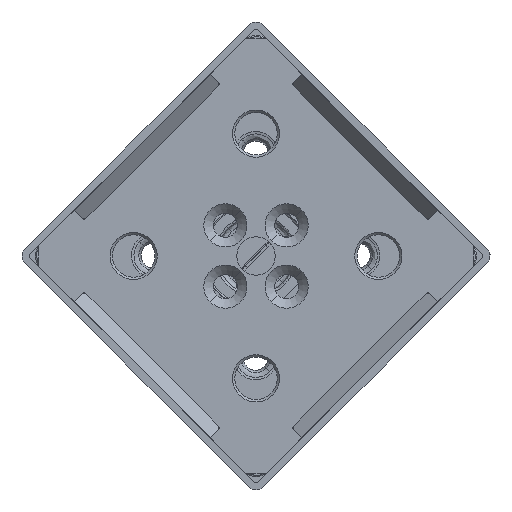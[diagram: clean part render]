
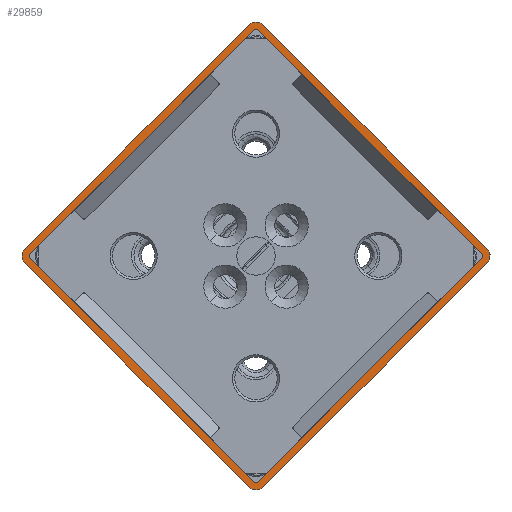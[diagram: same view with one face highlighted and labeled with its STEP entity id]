
A CAD part, left-side view. The second image highlights one B-rep face of the part: STEP entity #29859.
In plain terms, the highlighted planar face has unit normal (-1, 0, 0) as drawn and (0, -1, 0) by its records, which use the part's own axes.
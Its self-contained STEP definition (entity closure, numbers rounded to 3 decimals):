
#657 = EDGE_CURVE ( 'NONE', #50872, #6679, #55250, .T. ) ;
#1380 = ORIENTED_EDGE ( 'NONE', *, *, #38795, .T. ) ;
#1671 = AXIS2_PLACEMENT_3D ( 'NONE', #7161, #50293, #20196 ) ;
#1926 = DIRECTION ( 'NONE',  ( 0., 1., 0. ) ) ;
#2103 = CARTESIAN_POINT ( 'NONE',  ( -33., 0., -33. ) ) ;
#3535 = CARTESIAN_POINT ( 'NONE',  ( -33.5, 0., 33. ) ) ;
#3943 = CARTESIAN_POINT ( 'NONE',  ( -35., 0., 33. ) ) ;
#4240 = FACE_BOUND ( 'NONE', #39402, .T. ) ;
#4444 = DIRECTION ( 'NONE',  ( 0., 0., -1. ) ) ;
#4704 = CARTESIAN_POINT ( 'NONE',  ( 35., 0., -33. ) ) ;
#4969 = CARTESIAN_POINT ( 'NONE',  ( 35., 0., -35. ) ) ;
#5151 = VERTEX_POINT ( 'NONE', #11495 ) ;
#5695 = CARTESIAN_POINT ( 'NONE',  ( -33., 0., 33. ) ) ;
#5888 = DIRECTION ( 'NONE',  ( 0., -1., 0. ) ) ;
#6018 = CARTESIAN_POINT ( 'NONE',  ( 33., 0., 33.5 ) ) ;
#6189 = DIRECTION ( 'NONE',  ( 0., 0., 1. ) ) ;
#6377 = VECTOR ( 'NONE', #27333, 1000. ) ;
#6381 = VERTEX_POINT ( 'NONE', #19144 ) ;
#6679 = VERTEX_POINT ( 'NONE', #48446 ) ;
#7084 = DIRECTION ( 'NONE',  ( 0., -1., 0. ) ) ;
#7161 = CARTESIAN_POINT ( 'NONE',  ( 33., 0., -33. ) ) ;
#8364 = EDGE_CURVE ( 'NONE', #32255, #6381, #53632, .T. ) ;
#8738 = CARTESIAN_POINT ( 'NONE',  ( 35., 0., -33.5 ) ) ;
#8912 = VECTOR ( 'NONE', #42591, 1000. ) ;
#9040 = VECTOR ( 'NONE', #21543, 1000. ) ;
#9126 = LINE ( 'NONE', #8738, #35053 ) ;
#9508 = CARTESIAN_POINT ( 'NONE',  ( 33., 0., -35. ) ) ;
#9736 = EDGE_CURVE ( 'NONE', #20896, #28183, #44194, .T. ) ;
#9762 = AXIS2_PLACEMENT_3D ( 'NONE', #21400, #25697, #4444 ) ;
#10309 = CARTESIAN_POINT ( 'NONE',  ( 33.5, 0., 33. ) ) ;
#10525 = EDGE_CURVE ( 'NONE', #18571, #12742, #16004, .T. ) ;
#11495 = CARTESIAN_POINT ( 'NONE',  ( -33., 0., -33.5 ) ) ;
#12179 = ORIENTED_EDGE ( 'NONE', *, *, #49086, .T. ) ;
#12308 = ORIENTED_EDGE ( 'NONE', *, *, #54516, .T. ) ;
#12742 = VERTEX_POINT ( 'NONE', #10309 ) ;
#12803 = VECTOR ( 'NONE', #13637, 1000. ) ;
#12852 = ORIENTED_EDGE ( 'NONE', *, *, #17684, .T. ) ;
#13637 = DIRECTION ( 'NONE',  ( 0., 0., 1. ) ) ;
#13996 = EDGE_CURVE ( 'NONE', #23953, #32663, #18301, .T. ) ;
#14532 = CARTESIAN_POINT ( 'NONE',  ( 33., 0., 35. ) ) ;
#14807 = ORIENTED_EDGE ( 'NONE', *, *, #23459, .F. ) ;
#14996 = ORIENTED_EDGE ( 'NONE', *, *, #8364, .T. ) ;
#15267 = CARTESIAN_POINT ( 'NONE',  ( -33., 0., 35. ) ) ;
#16004 = CIRCLE ( 'NONE', #22441, 0.5 ) ;
#16369 = DIRECTION ( 'NONE',  ( 0., -1., 0. ) ) ;
#17684 = EDGE_CURVE ( 'NONE', #5151, #34573, #34817, .T. ) ;
#18301 = LINE ( 'NONE', #48833, #6377 ) ;
#18571 = VERTEX_POINT ( 'NONE', #6018 ) ;
#18816 = AXIS2_PLACEMENT_3D ( 'NONE', #45631, #45452, #24513 ) ;
#19144 = CARTESIAN_POINT ( 'NONE',  ( 33., 0., -33.5 ) ) ;
#19308 = CARTESIAN_POINT ( 'NONE',  ( 35., 0., 35. ) ) ;
#19596 = LINE ( 'NONE', #55105, #8912 ) ;
#20196 = DIRECTION ( 'NONE',  ( 0., 0., 1. ) ) ;
#20224 = DIRECTION ( 'NONE',  ( 0., -1., 0. ) ) ;
#20368 = LINE ( 'NONE', #30140, #9040 ) ;
#20377 = ORIENTED_EDGE ( 'NONE', *, *, #27175, .T. ) ;
#20896 = VERTEX_POINT ( 'NONE', #3535 ) ;
#21400 = CARTESIAN_POINT ( 'NONE',  ( 33., 0., 33. ) ) ;
#21543 = DIRECTION ( 'NONE',  ( 0., 0., -1. ) ) ;
#21604 = ORIENTED_EDGE ( 'NONE', *, *, #43603, .T. ) ;
#21714 = EDGE_CURVE ( 'NONE', #12742, #32255, #20368, .T. ) ;
#22441 = AXIS2_PLACEMENT_3D ( 'NONE', #26529, #40151, #23341 ) ;
#23028 = VERTEX_POINT ( 'NONE', #9508 ) ;
#23341 = DIRECTION ( 'NONE',  ( 0., 0., 1. ) ) ;
#23459 = EDGE_CURVE ( 'NONE', #23953, #31006, #38891, .T. ) ;
#23858 = DIRECTION ( 'NONE',  ( 0., 0., -1. ) ) ;
#23953 = VERTEX_POINT ( 'NONE', #14532 ) ;
#24513 = DIRECTION ( 'NONE',  ( 0., 0., 1. ) ) ;
#25011 = CARTESIAN_POINT ( 'NONE',  ( 35., 0., -35. ) ) ;
#25588 = FACE_OUTER_BOUND ( 'NONE', #44670, .T. ) ;
#25697 = DIRECTION ( 'NONE',  ( 0., 1., 0. ) ) ;
#26529 = CARTESIAN_POINT ( 'NONE',  ( 33., 0., 33. ) ) ;
#27060 = ORIENTED_EDGE ( 'NONE', *, *, #657, .T. ) ;
#27175 = EDGE_CURVE ( 'NONE', #32663, #38821, #31946, .T. ) ;
#27333 = DIRECTION ( 'NONE',  ( -1., 0., 0. ) ) ;
#27414 = AXIS2_PLACEMENT_3D ( 'NONE', #54440, #20224, #50142 ) ;
#27905 = CARTESIAN_POINT ( 'NONE',  ( 33.5, 0., -33. ) ) ;
#28183 = VERTEX_POINT ( 'NONE', #29925 ) ;
#29859 = ADVANCED_FACE ( 'NONE', ( #4240, #25588 ), #38270, .T. ) ;
#29925 = CARTESIAN_POINT ( 'NONE',  ( -33., 0., 33.5 ) ) ;
#29981 = ORIENTED_EDGE ( 'NONE', *, *, #49764, .T. ) ;
#30140 = CARTESIAN_POINT ( 'NONE',  ( 33.5, 0., -35. ) ) ;
#31006 = VERTEX_POINT ( 'NONE', #41634 ) ;
#31437 = CARTESIAN_POINT ( 'NONE',  ( -33.5, 0., -33. ) ) ;
#31763 = AXIS2_PLACEMENT_3D ( 'NONE', #5695, #5888, #48455 ) ;
#31916 = VECTOR ( 'NONE', #37544, 1000. ) ;
#31946 = CIRCLE ( 'NONE', #31763, 2. ) ;
#32255 = VERTEX_POINT ( 'NONE', #27905 ) ;
#32663 = VERTEX_POINT ( 'NONE', #15267 ) ;
#32796 = CARTESIAN_POINT ( 'NONE',  ( 33., 0., -33. ) ) ;
#33414 = DIRECTION ( 'NONE',  ( 0., 0., -1. ) ) ;
#33614 = CARTESIAN_POINT ( 'NONE',  ( -35., 0., -33. ) ) ;
#34007 = ORIENTED_EDGE ( 'NONE', *, *, #9736, .T. ) ;
#34113 = CIRCLE ( 'NONE', #40105, 2. ) ;
#34573 = VERTEX_POINT ( 'NONE', #31437 ) ;
#34817 = CIRCLE ( 'NONE', #49644, 0.5 ) ;
#35053 = VECTOR ( 'NONE', #51490, 1000. ) ;
#35071 = VERTEX_POINT ( 'NONE', #4704 ) ;
#35195 = DIRECTION ( 'NONE',  ( 1., 0., 0. ) ) ;
#36351 = ORIENTED_EDGE ( 'NONE', *, *, #21714, .T. ) ;
#36469 = VECTOR ( 'NONE', #35195, 1000. ) ;
#37544 = DIRECTION ( 'NONE',  ( 1., 0., 0. ) ) ;
#38270 = PLANE ( 'NONE',  #41209 ) ;
#38795 = EDGE_CURVE ( 'NONE', #38821, #50872, #19596, .T. ) ;
#38821 = VERTEX_POINT ( 'NONE', #3943 ) ;
#38891 = CIRCLE ( 'NONE', #9762, 2. ) ;
#39402 = EDGE_LOOP ( 'NONE', ( #44752, #49285, #36351, #14996, #21604, #12852, #52664, #34007 ) ) ;
#40007 = CARTESIAN_POINT ( 'NONE',  ( -33.5, 0., -35. ) ) ;
#40064 = DIRECTION ( 'NONE',  ( 0., 0., 1. ) ) ;
#40105 = AXIS2_PLACEMENT_3D ( 'NONE', #32796, #7084, #23858 ) ;
#40151 = DIRECTION ( 'NONE',  ( 0., 1., 0. ) ) ;
#40860 = VECTOR ( 'NONE', #40064, 1000. ) ;
#41209 = AXIS2_PLACEMENT_3D ( 'NONE', #25011, #16369, #33414 ) ;
#41485 = CARTESIAN_POINT ( 'NONE',  ( 35., 0., 33.5 ) ) ;
#41634 = CARTESIAN_POINT ( 'NONE',  ( 35., 0., 33. ) ) ;
#42591 = DIRECTION ( 'NONE',  ( 0., 0., -1. ) ) ;
#43603 = EDGE_CURVE ( 'NONE', #6381, #5151, #9126, .T. ) ;
#44194 = CIRCLE ( 'NONE', #18816, 0.5 ) ;
#44670 = EDGE_LOOP ( 'NONE', ( #12179, #14807, #48241, #20377, #1380, #27060, #12308, #29981 ) ) ;
#44752 = ORIENTED_EDGE ( 'NONE', *, *, #51554, .T. ) ;
#45164 = LINE ( 'NONE', #4969, #36469 ) ;
#45452 = DIRECTION ( 'NONE',  ( 0., 1., 0. ) ) ;
#45631 = CARTESIAN_POINT ( 'NONE',  ( -33., 0., 33. ) ) ;
#46002 = LINE ( 'NONE', #41485, #31916 ) ;
#48241 = ORIENTED_EDGE ( 'NONE', *, *, #13996, .T. ) ;
#48446 = CARTESIAN_POINT ( 'NONE',  ( -33., 0., -35. ) ) ;
#48451 = EDGE_CURVE ( 'NONE', #34573, #20896, #49613, .T. ) ;
#48455 = DIRECTION ( 'NONE',  ( 0., 0., -1. ) ) ;
#48833 = CARTESIAN_POINT ( 'NONE',  ( 35., 0., 35. ) ) ;
#49086 = EDGE_CURVE ( 'NONE', #35071, #31006, #52220, .T. ) ;
#49285 = ORIENTED_EDGE ( 'NONE', *, *, #10525, .T. ) ;
#49613 = LINE ( 'NONE', #40007, #12803 ) ;
#49644 = AXIS2_PLACEMENT_3D ( 'NONE', #2103, #1926, #6189 ) ;
#49764 = EDGE_CURVE ( 'NONE', #23028, #35071, #34113, .T. ) ;
#50142 = DIRECTION ( 'NONE',  ( 0., 0., -1. ) ) ;
#50293 = DIRECTION ( 'NONE',  ( 0., 1., 0. ) ) ;
#50872 = VERTEX_POINT ( 'NONE', #33614 ) ;
#51490 = DIRECTION ( 'NONE',  ( -1., 0., 0. ) ) ;
#51554 = EDGE_CURVE ( 'NONE', #28183, #18571, #46002, .T. ) ;
#52220 = LINE ( 'NONE', #19308, #40860 ) ;
#52664 = ORIENTED_EDGE ( 'NONE', *, *, #48451, .T. ) ;
#53632 = CIRCLE ( 'NONE', #1671, 0.5 ) ;
#54440 = CARTESIAN_POINT ( 'NONE',  ( -33., 0., -33. ) ) ;
#54516 = EDGE_CURVE ( 'NONE', #6679, #23028, #45164, .T. ) ;
#55105 = CARTESIAN_POINT ( 'NONE',  ( -35., 0., -35. ) ) ;
#55250 = CIRCLE ( 'NONE', #27414, 2. ) ;
